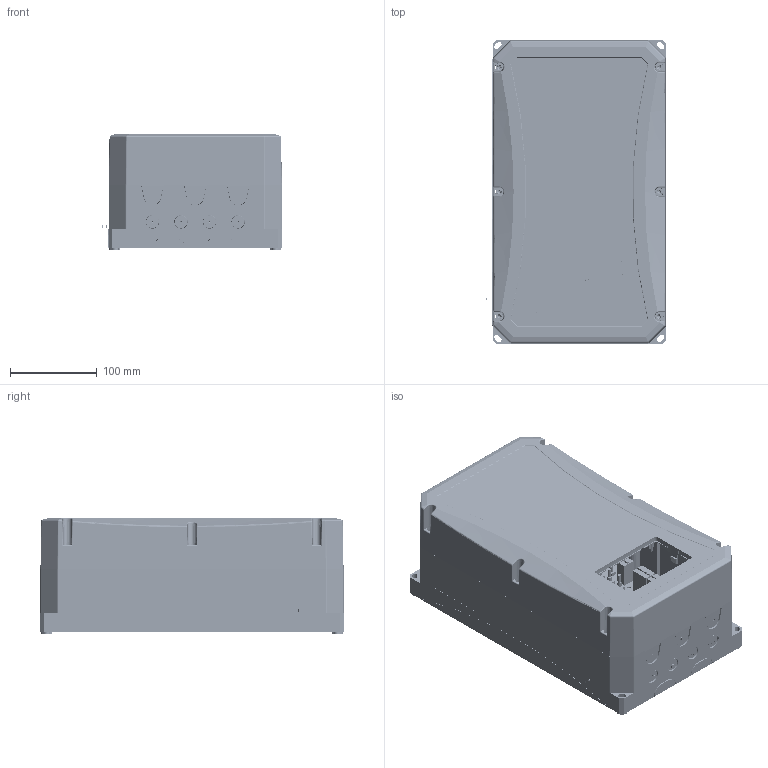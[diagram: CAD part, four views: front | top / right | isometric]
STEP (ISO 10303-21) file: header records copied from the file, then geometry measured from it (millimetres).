
FILE_DESCRIPTION (( 'STEP AP214' ), '1' );
FILE_NAME ('Twist_UG_Steuerung.STEP', '2016-04-26T07:53:41', ( 'Admin' ), ( '' ), 'SwSTEP 2.0', 'SolidWorks 2014', '' );
FILE_SCHEMA (( 'AUTOMOTIVE_DESIGN' ));
Length unit declared in the file: millimetre
Products named in the file (12): 90494; dtc1_b1_02-03-2016; Dummy_Akkupack; 20465V000_Gehäuse_Deckel_Housing_Cover; 20464V000_Gehäuse_Unterteil_Housing_Base; 80084_Halteblech_Trafo_Akku-Pack; PEM_HFH-M4-16; 80084_1_Halteblech_Trafo_Akku-Pack; test_Trafo_DM116; Test_20801V000_Gehäuse_Deckel_geschlossen_Automatiksteuerung; Test_20800V000_Gehäuse_UT_Automatiksteuerung; Twist_UG_Steuerung
Assembly tree (11 placements, depth 3):
  Twist_UG_Steuerung
    Test_20800V000_Gehäuse_UT_Automatiksteuerung
    Test_20801V000_Gehäuse_Deckel_geschlossen_Automatiksteuerung
    test_Trafo_DM116
    80084_Halteblech_Trafo_Akku-Pack
      80084_1_Halteblech_Trafo_Akku-Pack
      PEM_HFH-M4-16
    Dummy_Akkupack
      20464V000_Gehäuse_Unterteil_Housing_Base
      20465V000_Gehäuse_Deckel_Housing_Cover
    dtc1_b1_02-03-2016
    90494
Bounding box: 208.1 x 350 x 133 mm (x, y, z)
Volume: 1357017.1 mm3; surface area: 1006594.6 mm2
Topology: 8 solids, 744 shells, 8730 faces, 22961 edges, 15335 vertices
Faces by surface type: plane 5488, cylinder 1511, bspline 848, cone 530, torus 279, sphere 74
Entity records: 356247 total; most frequent: CARTESIAN_POINT 96720, ORIENTED_EDGE 42700, DIRECTION 40336, EDGE_CURVE 22931, LINE 15600, VECTOR 15600, VERTEX_POINT 15329, AXIS2_PLACEMENT_3D 12368
